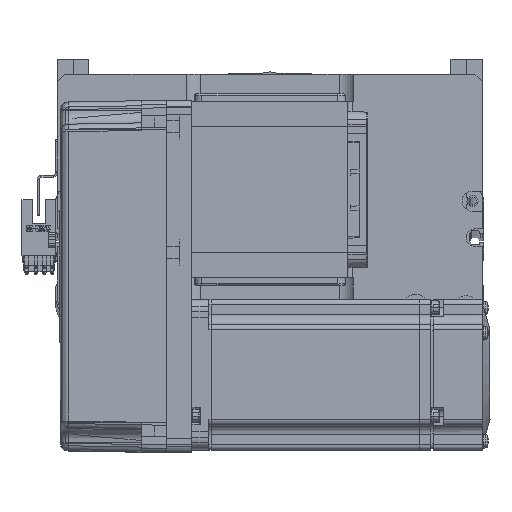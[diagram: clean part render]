
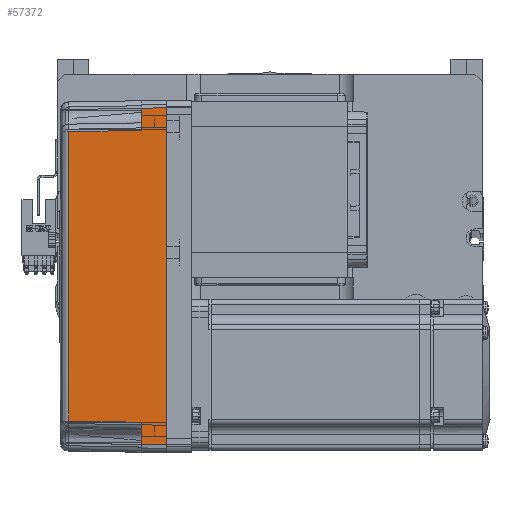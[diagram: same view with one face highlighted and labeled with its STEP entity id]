
A CAD part, top view. The second image highlights one B-rep face of the part: STEP entity #57372.
In plain terms, the highlighted planar face has unit normal (-0.018, 0, 1) as drawn and (0, -1, 0.017) by its records, which use the part's own axes.
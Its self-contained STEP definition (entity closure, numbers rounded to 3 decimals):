
#725 = CARTESIAN_POINT ( 'NONE',  ( 70., -35.825, 10. ) ) ;
#3073 = CARTESIAN_POINT ( 'NONE',  ( 57.495, -35.32, 38.985 ) ) ;
#3447 = CARTESIAN_POINT ( 'NONE',  ( 57.495, -35.32, 38.985 ) ) ;
#4383 = ORIENTED_EDGE ( 'NONE', *, *, #11779, .T. ) ;
#4644 = PLANE ( 'NONE',  #61606 ) ;
#6015 = EDGE_CURVE ( 'NONE', #10323, #50421, #42035, .T. ) ;
#6847 = CARTESIAN_POINT ( 'NONE',  ( -57.495, -35.32, 38.985 ) ) ;
#8791 = B_SPLINE_CURVE_WITH_KNOTS ( 'NONE', 3,
 ( #3447, #48430, #23754, #38701 ),
 .UNSPECIFIED., .F., .F.,
 ( 4, 4 ),
 ( 0., 1. ),
 .UNSPECIFIED. ) ;
#9483 = LINE ( 'NONE', #725, #61523 ) ;
#10323 = VERTEX_POINT ( 'NONE', #20039 ) ;
#10821 = ORIENTED_EDGE ( 'NONE', *, *, #6015, .T. ) ;
#11187 = EDGE_LOOP ( 'NONE', ( #10821, #61293, #31161, #4383, #17354, #43429, #41226, #34919 ) ) ;
#11779 = EDGE_CURVE ( 'NONE', #38850, #14010, #8791, .T. ) ;
#14010 = VERTEX_POINT ( 'NONE', #6847 ) ;
#14526 = VERTEX_POINT ( 'NONE', #60578 ) ;
#14812 = EDGE_CURVE ( 'NONE', #10323, #26133, #58840, .T. ) ;
#17354 = ORIENTED_EDGE ( 'NONE', *, *, #19103, .T. ) ;
#17765 = VECTOR ( 'NONE', #49552, 1000. ) ;
#18769 = EDGE_CURVE ( 'NONE', #50421, #55987, #9483, .T. ) ;
#18917 = LINE ( 'NONE', #53342, #55208 ) ;
#19103 = EDGE_CURVE ( 'NONE', #14010, #29279, #46377, .T. ) ;
#20039 = CARTESIAN_POINT ( 'NONE',  ( 67., -36., 0. ) ) ;
#20171 = CARTESIAN_POINT ( 'NONE',  ( 67., -36., 0. ) ) ;
#22331 = EDGE_CURVE ( 'NONE', #55987, #38850, #39031, .T. ) ;
#22564 = CARTESIAN_POINT ( 'NONE',  ( 0., -36., 0. ) ) ;
#22623 = CARTESIAN_POINT ( 'NONE',  ( 70., -35.825, 10. ) ) ;
#23193 = DIRECTION ( 'NONE',  ( 0.017, 0.017, 1. ) ) ;
#23754 = CARTESIAN_POINT ( 'NONE',  ( -19.165, -35.316, 39.181 ) ) ;
#24063 = DIRECTION ( 'NONE',  ( 0., -0.017, -1. ) ) ;
#26133 = VERTEX_POINT ( 'NONE', #30014 ) ;
#26303 = DIRECTION ( 'NONE',  ( -1., 0., 0. ) ) ;
#29279 = VERTEX_POINT ( 'NONE', #44025 ) ;
#30014 = CARTESIAN_POINT ( 'NONE',  ( -67., -36., 0. ) ) ;
#30095 = FACE_OUTER_BOUND ( 'NONE', #11187, .T. ) ;
#31161 = ORIENTED_EDGE ( 'NONE', *, *, #22331, .T. ) ;
#33156 = LINE ( 'NONE', #22623, #63981 ) ;
#34778 = CARTESIAN_POINT ( 'NONE',  ( 58., -35.825, 10. ) ) ;
#34919 = ORIENTED_EDGE ( 'NONE', *, *, #14812, .F. ) ;
#35152 = VECTOR ( 'NONE', #53153, 1000. ) ;
#35277 = CARTESIAN_POINT ( 'NONE',  ( -57.495, -35.32, 38.985 ) ) ;
#35501 = EDGE_CURVE ( 'NONE', #26133, #14526, #18917, .T. ) ;
#38701 = CARTESIAN_POINT ( 'NONE',  ( -57.495, -35.32, 38.985 ) ) ;
#38850 = VERTEX_POINT ( 'NONE', #3073 ) ;
#39031 = LINE ( 'NONE', #34778, #17765 ) ;
#40335 = CARTESIAN_POINT ( 'NONE',  ( 66.826, -35.825, 10. ) ) ;
#41226 = ORIENTED_EDGE ( 'NONE', *, *, #35501, .F. ) ;
#42035 = LINE ( 'NONE', #20171, #49921 ) ;
#43429 = ORIENTED_EDGE ( 'NONE', *, *, #64365, .T. ) ;
#44025 = CARTESIAN_POINT ( 'NONE',  ( -58., -35.825, 10. ) ) ;
#46058 = DIRECTION ( 'NONE',  ( -0.017, -0.017, -1. ) ) ;
#46377 = LINE ( 'NONE', #35277, #50359 ) ;
#48430 = CARTESIAN_POINT ( 'NONE',  ( 19.165, -35.316, 39.181 ) ) ;
#49552 = DIRECTION ( 'NONE',  ( -0.017, 0.017, 1. ) ) ;
#49606 = CARTESIAN_POINT ( 'NONE',  ( 70., -36., 0. ) ) ;
#49921 = VECTOR ( 'NONE', #60790, 1000. ) ;
#50359 = VECTOR ( 'NONE', #46058, 1000. ) ;
#50421 = VERTEX_POINT ( 'NONE', #40335 ) ;
#53153 = DIRECTION ( 'NONE',  ( -1., 0., 0. ) ) ;
#53342 = CARTESIAN_POINT ( 'NONE',  ( -66.959, -35.958, 2.39 ) ) ;
#55116 = DIRECTION ( 'NONE',  ( 0., -1., 0.017 ) ) ;
#55208 = VECTOR ( 'NONE', #23193, 1000. ) ;
#55987 = VERTEX_POINT ( 'NONE', #63763 ) ;
#57372 = ADVANCED_FACE ( 'NONE', ( #30095 ), #4644, .T. ) ;
#58840 = LINE ( 'NONE', #22564, #35152 ) ;
#60578 = CARTESIAN_POINT ( 'NONE',  ( -66.826, -35.825, 10. ) ) ;
#60790 = DIRECTION ( 'NONE',  ( -0.017, 0.017, 1. ) ) ;
#61293 = ORIENTED_EDGE ( 'NONE', *, *, #18769, .T. ) ;
#61523 = VECTOR ( 'NONE', #26303, 1000. ) ;
#61606 = AXIS2_PLACEMENT_3D ( 'NONE', #49606, #55116, #24063 ) ;
#63202 = DIRECTION ( 'NONE',  ( -1., 0., 0. ) ) ;
#63763 = CARTESIAN_POINT ( 'NONE',  ( 58., -35.825, 10. ) ) ;
#63981 = VECTOR ( 'NONE', #63202, 1000. ) ;
#64365 = EDGE_CURVE ( 'NONE', #29279, #14526, #33156, .T. ) ;
